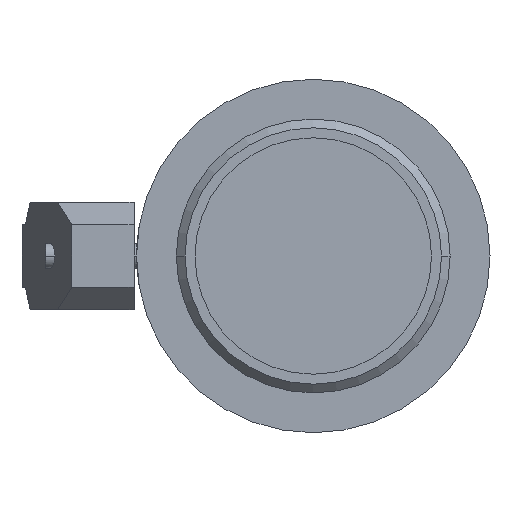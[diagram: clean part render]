
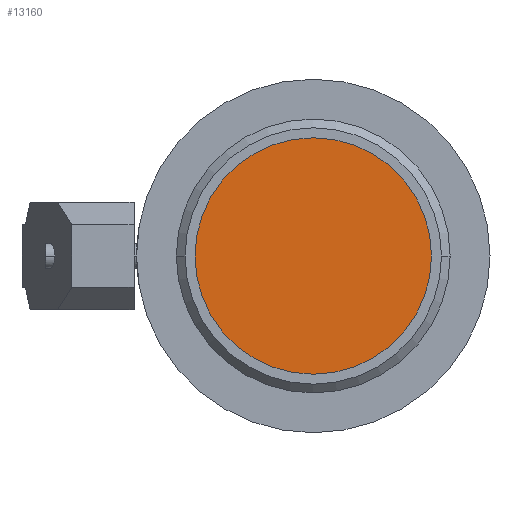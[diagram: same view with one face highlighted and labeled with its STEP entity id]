
A CAD part, left-side view. The second image highlights one B-rep face of the part: STEP entity #13160.
In plain terms, the highlighted planar face has unit normal (-1, 0, 0).
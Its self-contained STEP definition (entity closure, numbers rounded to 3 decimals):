
#12960=CARTESIAN_POINT('',(-293.595,37.875,
0.));
#12970=DIRECTION('',(-1.,0.,0.));
#12980=DIRECTION('',(0.,0.,1.));
#12990=AXIS2_PLACEMENT_3D('',#12960,#12970,#12980);
#13000=PLANE('',#12990);
#13010=CARTESIAN_POINT('',(-293.595,37.875,
0.));
#13020=DIRECTION('',(-1.,0.,0.));
#13030=DIRECTION('',(0.,0.,1.));
#13040=AXIS2_PLACEMENT_3D('',#13010,#13020,#13030);
#13050=CIRCLE('',#13040,47.5);
#13060=CARTESIAN_POINT('',(-293.595,37.875,47.5));
#13070=VERTEX_POINT('',#13060);
#13080=CARTESIAN_POINT('',(-293.595,37.875,-47.5));
#13090=VERTEX_POINT('',#13080);
#13100=EDGE_CURVE('',#13070,#13090,#13050,.T.);
#13110=ORIENTED_EDGE('',*,*,#13100,.T.);
#13120=EDGE_CURVE('',#13090,#13070,#13050,.T.);
#13130=ORIENTED_EDGE('',*,*,#13120,.T.);
#13140=EDGE_LOOP('',(#13130,#13110));
#13150=FACE_OUTER_BOUND('',#13140,.T.);
#13160=ADVANCED_FACE('',(#13150),#13000,.T.);
